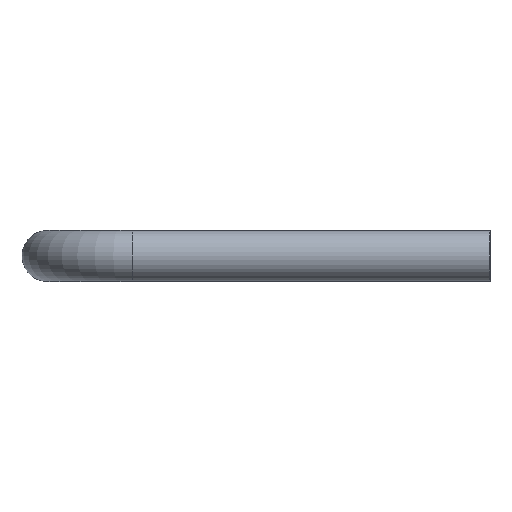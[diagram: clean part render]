
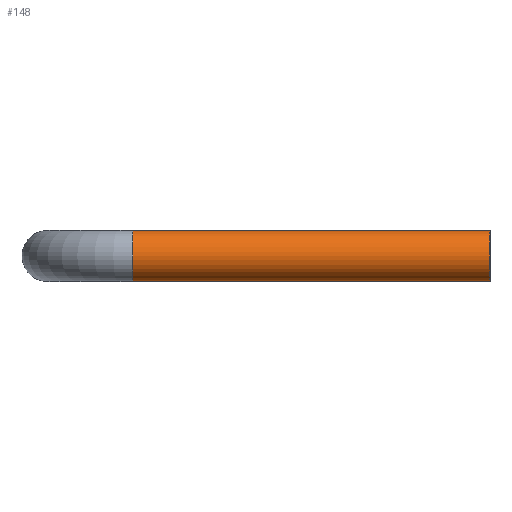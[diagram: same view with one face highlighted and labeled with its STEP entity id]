
A CAD part, left-side view. The second image highlights one B-rep face of the part: STEP entity #148.
In plain terms, the highlighted cylindrical face has radius 6 mm (diameter 12 mm), a full revolution.
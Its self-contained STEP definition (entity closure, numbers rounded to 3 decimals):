
#28=CYLINDRICAL_SURFACE('',#176,6.);
#35=ORIENTED_EDGE('',*,*,#59,.F.);
#36=ORIENTED_EDGE('',*,*,#57,.T.);
#57=EDGE_CURVE('',#69,#69,#83,.T.);
#59=EDGE_CURVE('',#71,#71,#85,.T.);
#69=VERTEX_POINT('',#253);
#71=VERTEX_POINT('',#258);
#83=CIRCLE('',#174,6.);
#85=CIRCLE('',#177,6.);
#97=EDGE_LOOP('',(#35));
#98=EDGE_LOOP('',(#36));
#121=FACE_BOUND('',#97,.T.);
#122=FACE_BOUND('',#98,.T.);
#148=ADVANCED_FACE('',(#121,#122),#28,.T.);
#174=AXIS2_PLACEMENT_3D('',#252,#202,#203);
#176=AXIS2_PLACEMENT_3D('',#256,#206,#207);
#177=AXIS2_PLACEMENT_3D('',#257,#208,#209);
#202=DIRECTION('',(0.,1.,0.));
#203=DIRECTION('',(0.,0.,1.));
#206=DIRECTION('',(0.,1.,0.));
#207=DIRECTION('',(0.,0.,1.));
#208=DIRECTION('',(0.,1.,0.));
#209=DIRECTION('',(0.,0.,1.));
#252=CARTESIAN_POINT('',(-100.,0.,0.));
#253=CARTESIAN_POINT('',(-100.,0.,6.));
#256=CARTESIAN_POINT('',(-100.,84.,0.));
#257=CARTESIAN_POINT('',(-100.,84.,0.));
#258=CARTESIAN_POINT('',(-100.,84.,6.));
